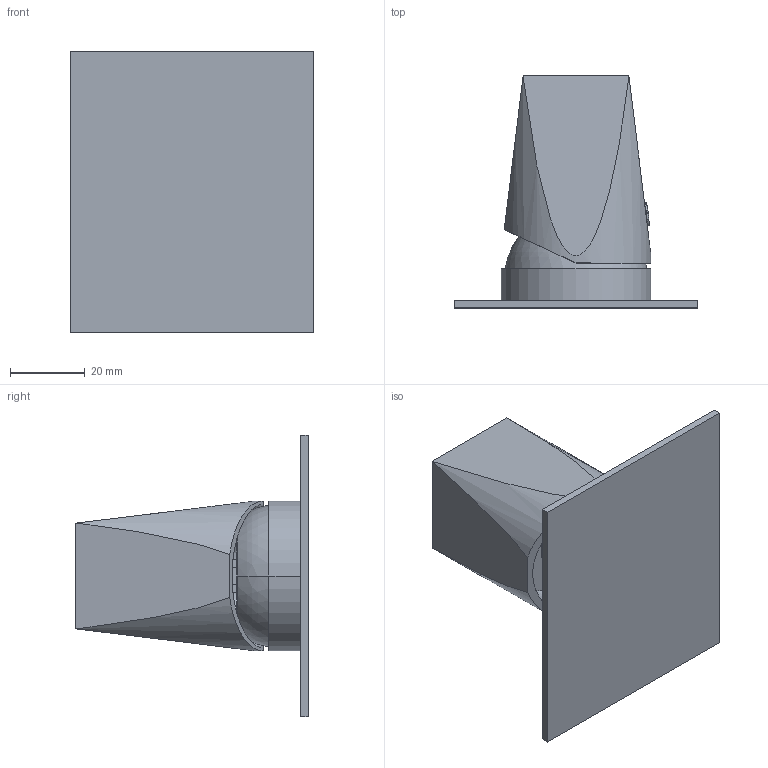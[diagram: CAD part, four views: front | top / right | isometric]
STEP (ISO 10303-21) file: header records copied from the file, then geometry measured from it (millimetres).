
FILE_DESCRIPTION((''),'2;1');
FILE_NAME('4942721_SW0001','2023-10-02T11:59:50',('carloff'),(''),'CREO PARAMETRIC BY PTC INC, 2022014','CREO PARAMETRIC BY PTC INC, 2022014','');
FILE_SCHEMA(('CONFIG_CONTROL_DESIGN'));
Length unit declared in the file: millimetre
Products named in the file (1): 4942721_SW0001
Bounding box: 65 x 62 x 75 mm (x, y, z)
Volume: 67336 mm3; surface area: 22732.2 mm2
Topology: 1 solids, 1 shells, 133 faces, 378 edges, 242 vertices
Faces by surface type: plane 64, cylinder 31, bspline 16, cone 12, torus 8, sphere 2
Entity records: 7715 total; most frequent: CARTESIAN_POINT 4420, ORIENTED_EDGE 748, DIRECTION 578, EDGE_CURVE 374, VERTEX_POINT 242, AXIS2_PLACEMENT_3D 197, VECTOR 184, LINE 184
